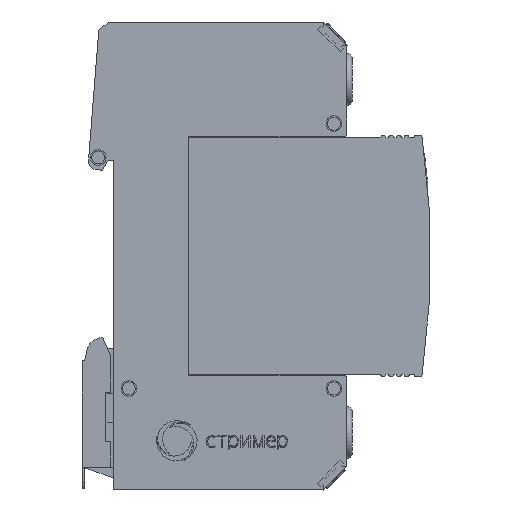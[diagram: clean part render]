
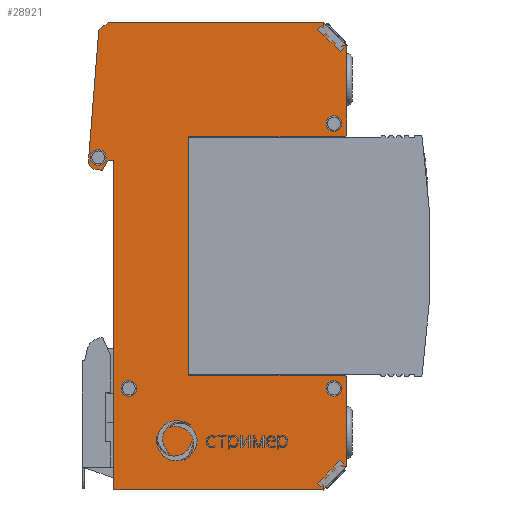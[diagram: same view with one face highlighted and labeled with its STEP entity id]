
A CAD part, front view. The second image highlights one B-rep face of the part: STEP entity #28921.
In plain terms, the highlighted planar face has unit normal (0, -1, 0).
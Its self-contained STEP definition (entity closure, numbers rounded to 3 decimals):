
#27121=CARTESIAN_POINT('',(-14.5,-9.,-45.));
#27122=VERTEX_POINT('',#27121);
#27123=CARTESIAN_POINT('',(26.,-9.,-45.));
#27124=VERTEX_POINT('',#27123);
#27125=CARTESIAN_POINT('',(-14.5,-9.,-45.));
#27126=DIRECTION('',(1.,0.,-0.));
#27127=VECTOR('',#27126,40.5);
#27128=LINE('',#27125,#27127);
#27129=EDGE_CURVE('',#27122,#27124,#27128,.T.);
#27791=CARTESIAN_POINT('',(-14.5,-9.,18.5));
#27792=VERTEX_POINT('',#27791);
#27793=CARTESIAN_POINT('',(-14.5,-9.,18.5));
#27794=DIRECTION('',(0.,0.,-1.));
#27795=VECTOR('',#27794,63.5);
#27796=LINE('',#27793,#27795);
#27797=EDGE_CURVE('',#27792,#27122,#27796,.T.);
#27992=CARTESIAN_POINT('',(-15.5,-9.,45.));
#27993=VERTEX_POINT('',#27992);
#27994=CARTESIAN_POINT('',(-17.29,-9.,43.498));
#27995=VERTEX_POINT('',#27994);
#27996=CARTESIAN_POINT('',(-15.5,-9.,45.));
#27997=DIRECTION('',(-0.766,0.,-0.643));
#27998=VECTOR('',#27997,2.337);
#27999=LINE('',#27996,#27998);
#28000=EDGE_CURVE('',#27993,#27995,#27999,.T.);
#28032=CARTESIAN_POINT('',(-19.273,-9.,18.306));
#28033=VERTEX_POINT('',#28032);
#28034=CARTESIAN_POINT('',(-17.29,-9.,43.498));
#28035=DIRECTION('',(-0.078,0.,-0.997));
#28036=VECTOR('',#28035,25.27);
#28037=LINE('',#28034,#28036);
#28038=EDGE_CURVE('',#27995,#28033,#28037,.T.);
#28063=CARTESIAN_POINT('',(-17.999,-9.,16.704));
#28064=VERTEX_POINT('',#28063);
#28065=CARTESIAN_POINT('',(-17.777,-9.,18.188));
#28066=DIRECTION('',(0.,-1.,0.));
#28067=DIRECTION('',(0.,0.,1.));
#28068=AXIS2_PLACEMENT_3D('',#28065,#28066,#28067);
#28069=CIRCLE('',#28068,1.5);
#28070=EDGE_CURVE('',#28033,#28064,#28069,.T.);
#28096=CARTESIAN_POINT('',(-16.632,-9.,16.5));
#28097=VERTEX_POINT('',#28096);
#28098=CARTESIAN_POINT('',(-17.999,-9.,16.704));
#28099=DIRECTION('',(0.989,0.,-0.148));
#28100=VECTOR('',#28099,1.383);
#28101=LINE('',#28098,#28100);
#28102=EDGE_CURVE('',#28064,#28097,#28101,.T.);
#28127=CARTESIAN_POINT('',(-15.5,-9.,18.5));
#28128=VERTEX_POINT('',#28127);
#28129=CARTESIAN_POINT('',(-16.632,-9.,16.5));
#28130=DIRECTION('',(0.492,0.,0.87));
#28131=VECTOR('',#28130,2.298);
#28132=LINE('',#28129,#28131);
#28133=EDGE_CURVE('',#28097,#28128,#28132,.T.);
#28158=CARTESIAN_POINT('',(-15.5,-9.,18.5));
#28159=DIRECTION('',(1.,0.,0.));
#28160=VECTOR('',#28159,1.);
#28161=LINE('',#28158,#28160);
#28162=EDGE_CURVE('',#28128,#27792,#28161,.T.);
#28180=CARTESIAN_POINT('',(30.5,-9.,-40.5));
#28181=VERTEX_POINT('',#28180);
#28182=CARTESIAN_POINT('',(26.,-9.,-45.));
#28183=DIRECTION('',(0.707,0.,0.707));
#28184=VECTOR('',#28183,6.364);
#28185=LINE('',#28182,#28184);
#28186=EDGE_CURVE('',#27124,#28181,#28185,.T.);
#28231=CARTESIAN_POINT('',(30.5,-9.,-23.5));
#28232=VERTEX_POINT('',#28231);
#28233=CARTESIAN_POINT('',(30.5,-9.,-40.5));
#28234=DIRECTION('',(0.,0.,1.));
#28235=VECTOR('',#28234,17.);
#28236=LINE('',#28233,#28235);
#28237=EDGE_CURVE('',#28181,#28232,#28236,.T.);
#28262=CARTESIAN_POINT('',(30.,-9.,-23.));
#28263=VERTEX_POINT('',#28262);
#28264=CARTESIAN_POINT('',(30.,-9.,-23.5));
#28265=DIRECTION('',(0.,-1.,0.));
#28266=DIRECTION('',(0.,0.,1.));
#28267=AXIS2_PLACEMENT_3D('',#28264,#28265,#28266);
#28268=CIRCLE('',#28267,0.5);
#28269=EDGE_CURVE('',#28232,#28263,#28268,.T.);
#28295=CARTESIAN_POINT('',(0.,-9.,-23.));
#28296=VERTEX_POINT('',#28295);
#28297=CARTESIAN_POINT('',(30.,-9.,-23.));
#28298=DIRECTION('',(-1.,0.,0.));
#28299=VECTOR('',#28298,30.);
#28300=LINE('',#28297,#28299);
#28301=EDGE_CURVE('',#28263,#28296,#28300,.T.);
#28326=CARTESIAN_POINT('',(0.,-9.,23.));
#28327=VERTEX_POINT('',#28326);
#28328=CARTESIAN_POINT('',(0.,-9.,-23.));
#28329=DIRECTION('',(0.,0.,1.));
#28330=VECTOR('',#28329,46.);
#28331=LINE('',#28328,#28330);
#28332=EDGE_CURVE('',#28296,#28327,#28331,.T.);
#28357=CARTESIAN_POINT('',(30.,-9.,23.));
#28358=VERTEX_POINT('',#28357);
#28359=CARTESIAN_POINT('',(0.,-9.,23.));
#28360=DIRECTION('',(1.,0.,0.));
#28361=VECTOR('',#28360,30.);
#28362=LINE('',#28359,#28361);
#28363=EDGE_CURVE('',#28327,#28358,#28362,.T.);
#28388=CARTESIAN_POINT('',(30.5,-9.,23.5));
#28389=VERTEX_POINT('',#28388);
#28390=CARTESIAN_POINT('',(30.,-9.,23.5));
#28391=DIRECTION('',(0.,-1.,0.));
#28392=DIRECTION('',(0.,0.,1.));
#28393=AXIS2_PLACEMENT_3D('',#28390,#28391,#28392);
#28394=CIRCLE('',#28393,0.5);
#28395=EDGE_CURVE('',#28358,#28389,#28394,.T.);
#28441=CARTESIAN_POINT('',(30.5,-9.,40.5));
#28442=VERTEX_POINT('',#28441);
#28443=CARTESIAN_POINT('',(30.5,-9.,23.5));
#28444=DIRECTION('',(0.,0.,1.));
#28445=VECTOR('',#28444,17.);
#28446=LINE('',#28443,#28445);
#28447=EDGE_CURVE('',#28389,#28442,#28446,.T.);
#28472=CARTESIAN_POINT('',(26.,-9.,45.));
#28473=VERTEX_POINT('',#28472);
#28474=CARTESIAN_POINT('',(30.5,-9.,40.5));
#28475=DIRECTION('',(-0.707,0.,0.707));
#28476=VECTOR('',#28475,6.364);
#28477=LINE('',#28474,#28476);
#28478=EDGE_CURVE('',#28442,#28473,#28477,.T.);
#28503=CARTESIAN_POINT('',(-17.38,-9.,17.5));
#28504=VERTEX_POINT('',#28503);
#28513=CARTESIAN_POINT('',(-18.88,-9.,19.));
#28514=VERTEX_POINT('',#28513);
#28515=CARTESIAN_POINT('',(-17.38,-9.,19.));
#28516=DIRECTION('',(0.,-1.,0.));
#28517=DIRECTION('',(-1.,0.,0.));
#28518=AXIS2_PLACEMENT_3D('',#28515,#28516,#28517);
#28519=CIRCLE('',#28518,1.5);
#28520=EDGE_CURVE('',#28504,#28514,#28519,.T.);
#28545=CARTESIAN_POINT('',(28.,-9.,24.));
#28546=VERTEX_POINT('',#28545);
#28555=CARTESIAN_POINT('',(26.5,-9.,25.5));
#28556=VERTEX_POINT('',#28555);
#28557=CARTESIAN_POINT('',(28.,-9.,25.5));
#28558=DIRECTION('',(0.,-1.,0.));
#28559=DIRECTION('',(-1.,0.,0.));
#28560=AXIS2_PLACEMENT_3D('',#28557,#28558,#28559);
#28561=CIRCLE('',#28560,1.5);
#28562=EDGE_CURVE('',#28546,#28556,#28561,.T.);
#28587=CARTESIAN_POINT('',(-11.5,-9.,-27.));
#28588=VERTEX_POINT('',#28587);
#28597=CARTESIAN_POINT('',(-13.,-9.,-25.5));
#28598=VERTEX_POINT('',#28597);
#28599=CARTESIAN_POINT('',(-11.5,-9.,-25.5));
#28600=DIRECTION('',(0.,-1.,0.));
#28601=DIRECTION('',(-1.,0.,0.));
#28602=AXIS2_PLACEMENT_3D('',#28599,#28600,#28601);
#28603=CIRCLE('',#28602,1.5);
#28604=EDGE_CURVE('',#28588,#28598,#28603,.T.);
#28629=CARTESIAN_POINT('',(28.,-9.,-27.));
#28630=VERTEX_POINT('',#28629);
#28639=CARTESIAN_POINT('',(26.5,-9.,-25.5));
#28640=VERTEX_POINT('',#28639);
#28641=CARTESIAN_POINT('',(28.,-9.,-25.5));
#28642=DIRECTION('',(0.,-1.,0.));
#28643=DIRECTION('',(-1.,0.,0.));
#28644=AXIS2_PLACEMENT_3D('',#28641,#28642,#28643);
#28645=CIRCLE('',#28644,1.5);
#28646=EDGE_CURVE('',#28630,#28640,#28645,.T.);
#28773=CARTESIAN_POINT('',(26.,-9.,45.));
#28774=DIRECTION('',(-1.,0.,0.));
#28775=VECTOR('',#28774,41.5);
#28776=LINE('',#28773,#28775);
#28777=EDGE_CURVE('',#28473,#27993,#28776,.T.);
#28856=CARTESIAN_POINT('',(0.,-9.,0.));
#28857=DIRECTION('',(0.,-1.,0.));
#28858=DIRECTION('',(0.,0.,1.));
#28859=AXIS2_PLACEMENT_3D('',#28856,#28857,#28858);
#28860=PLANE('',#28859);
#28861=ORIENTED_EDGE('',*,*,#28646,.F.);
#28862=CARTESIAN_POINT('',(28.,-9.,-25.5));
#28863=DIRECTION('',(0.,-1.,0.));
#28864=DIRECTION('',(-1.,0.,0.));
#28865=AXIS2_PLACEMENT_3D('',#28862,#28863,#28864);
#28866=CIRCLE('',#28865,1.5);
#28867=EDGE_CURVE('',#28640,#28630,#28866,.T.);
#28868=ORIENTED_EDGE('',*,*,#28867,.F.);
#28869=EDGE_LOOP('',(#28861,#28868));
#28870=FACE_BOUND('',#28869,.T.);
#28871=ORIENTED_EDGE('',*,*,#28604,.F.);
#28872=CARTESIAN_POINT('',(-11.5,-9.,-25.5));
#28873=DIRECTION('',(0.,-1.,0.));
#28874=DIRECTION('',(-1.,0.,0.));
#28875=AXIS2_PLACEMENT_3D('',#28872,#28873,#28874);
#28876=CIRCLE('',#28875,1.5);
#28877=EDGE_CURVE('',#28598,#28588,#28876,.T.);
#28878=ORIENTED_EDGE('',*,*,#28877,.F.);
#28879=EDGE_LOOP('',(#28871,#28878));
#28880=FACE_BOUND('',#28879,.T.);
#28881=ORIENTED_EDGE('',*,*,#28562,.F.);
#28882=CARTESIAN_POINT('',(28.,-9.,25.5));
#28883=DIRECTION('',(0.,-1.,0.));
#28884=DIRECTION('',(-1.,0.,0.));
#28885=AXIS2_PLACEMENT_3D('',#28882,#28883,#28884);
#28886=CIRCLE('',#28885,1.5);
#28887=EDGE_CURVE('',#28556,#28546,#28886,.T.);
#28888=ORIENTED_EDGE('',*,*,#28887,.F.);
#28889=EDGE_LOOP('',(#28881,#28888));
#28890=FACE_BOUND('',#28889,.T.);
#28891=ORIENTED_EDGE('',*,*,#28520,.F.);
#28892=CARTESIAN_POINT('',(-17.38,-9.,19.));
#28893=DIRECTION('',(0.,-1.,0.));
#28894=DIRECTION('',(-1.,0.,0.));
#28895=AXIS2_PLACEMENT_3D('',#28892,#28893,#28894);
#28896=CIRCLE('',#28895,1.5);
#28897=EDGE_CURVE('',#28514,#28504,#28896,.T.);
#28898=ORIENTED_EDGE('',*,*,#28897,.F.);
#28899=EDGE_LOOP('',(#28891,#28898));
#28900=FACE_BOUND('',#28899,.T.);
#28901=ORIENTED_EDGE('',*,*,#28000,.T.);
#28902=ORIENTED_EDGE('',*,*,#28038,.T.);
#28903=ORIENTED_EDGE('',*,*,#28070,.T.);
#28904=ORIENTED_EDGE('',*,*,#28102,.T.);
#28905=ORIENTED_EDGE('',*,*,#28133,.T.);
#28906=ORIENTED_EDGE('',*,*,#28162,.T.);
#28907=ORIENTED_EDGE('',*,*,#27797,.T.);
#28908=ORIENTED_EDGE('',*,*,#27129,.T.);
#28909=ORIENTED_EDGE('',*,*,#28186,.T.);
#28910=ORIENTED_EDGE('',*,*,#28237,.T.);
#28911=ORIENTED_EDGE('',*,*,#28269,.T.);
#28912=ORIENTED_EDGE('',*,*,#28301,.T.);
#28913=ORIENTED_EDGE('',*,*,#28332,.T.);
#28914=ORIENTED_EDGE('',*,*,#28363,.T.);
#28915=ORIENTED_EDGE('',*,*,#28395,.T.);
#28916=ORIENTED_EDGE('',*,*,#28447,.T.);
#28917=ORIENTED_EDGE('',*,*,#28478,.T.);
#28918=ORIENTED_EDGE('',*,*,#28777,.T.);
#28919=EDGE_LOOP('',(#28901,#28902,#28903,#28904,#28905,#28906,#28907,#28908,#28909,#28910,#28911,#28912,#28913,#28914,#28915,#28916,#28917,#28918));
#28920=FACE_BOUND('',#28919,.T.);
#28921=ADVANCED_FACE('',(#28870,#28880,#28890,#28900,#28920),#28860,.T.);
